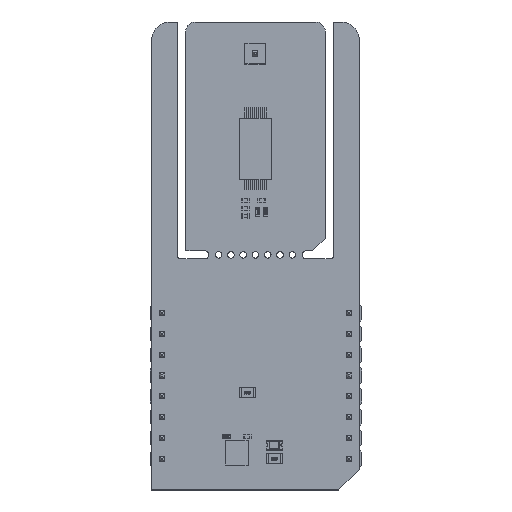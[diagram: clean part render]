
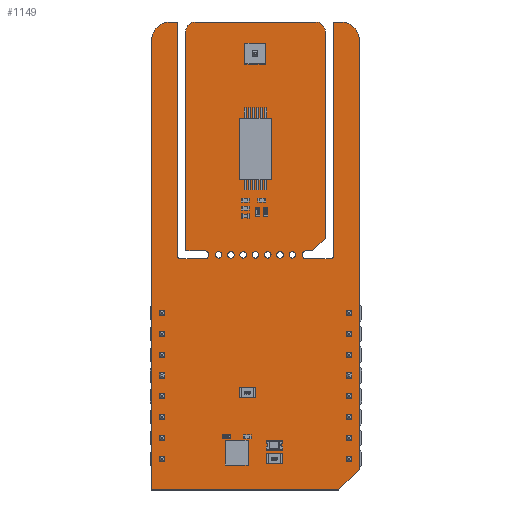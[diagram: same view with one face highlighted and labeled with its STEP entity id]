
A CAD part, top view. The second image highlights one B-rep face of the part: STEP entity #1149.
In plain terms, the highlighted planar face has unit normal (0, 0, 1).
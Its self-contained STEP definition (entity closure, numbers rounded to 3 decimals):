
#112 = VERTEX_POINT('',#113);
#113 = CARTESIAN_POINT('',(1.905,24.8,1.59));
#119 = EDGE_CURVE('',#112,#120,#122,.T.);
#120 = VERTEX_POINT('',#121);
#121 = CARTESIAN_POINT('',(2.305,24.4,1.59));
#122 = CIRCLE('',#123,0.399);
#123 = AXIS2_PLACEMENT_3D('',#124,#125,#126);
#124 = CARTESIAN_POINT('',(2.304,24.799,1.59));
#125 = DIRECTION('',(0.,0.,1.));
#126 = DIRECTION('',(-1.,0.001,0.));
#152 = EDGE_CURVE('',#120,#153,#155,.T.);
#153 = VERTEX_POINT('',#154);
#154 = CARTESIAN_POINT('',(5.23,24.4,1.59));
#155 = LINE('',#156,#157);
#156 = CARTESIAN_POINT('',(2.305,24.4,1.59));
#157 = VECTOR('',#158,1.);
#158 = DIRECTION('',(1.,0.,0.));
#183 = EDGE_CURVE('',#153,#184,#186,.T.);
#184 = VERTEX_POINT('',#185);
#185 = CARTESIAN_POINT('',(5.23,25.4,1.59));
#186 = CIRCLE('',#187,0.5);
#187 = AXIS2_PLACEMENT_3D('',#188,#189,#190);
#188 = CARTESIAN_POINT('',(5.23,24.9,1.59));
#189 = DIRECTION('',(0.,0.,1.));
#190 = DIRECTION('',(-0.,-1.,0.));
#216 = EDGE_CURVE('',#184,#217,#219,.T.);
#217 = VERTEX_POINT('',#218);
#218 = CARTESIAN_POINT('',(2.921,25.4,1.59));
#219 = LINE('',#220,#221);
#220 = CARTESIAN_POINT('',(5.23,25.4,1.59));
#221 = VECTOR('',#222,1.);
#222 = DIRECTION('',(-1.,0.,0.));
#247 = EDGE_CURVE('',#217,#248,#250,.T.);
#248 = VERTEX_POINT('',#249);
#249 = CARTESIAN_POINT('',(2.921,52.197,1.59));
#250 = LINE('',#251,#252);
#251 = CARTESIAN_POINT('',(2.921,25.4,1.59));
#252 = VECTOR('',#253,1.);
#253 = DIRECTION('',(0.,1.,0.));
#278 = EDGE_CURVE('',#248,#279,#281,.T.);
#279 = VERTEX_POINT('',#280);
#280 = CARTESIAN_POINT('',(4.064,53.34,1.59));
#281 = CIRCLE('',#282,1.144);
#282 = AXIS2_PLACEMENT_3D('',#283,#284,#285);
#283 = CARTESIAN_POINT('',(4.065,52.196,1.59));
#284 = DIRECTION('',(0.,0.,-1.));
#285 = DIRECTION('',(-1.,0.001,0.));
#311 = EDGE_CURVE('',#279,#312,#314,.T.);
#312 = VERTEX_POINT('',#313);
#313 = CARTESIAN_POINT('',(18.796,53.34,1.59));
#314 = LINE('',#315,#316);
#315 = CARTESIAN_POINT('',(4.064,53.34,1.59));
#316 = VECTOR('',#317,1.);
#317 = DIRECTION('',(1.,0.,0.));
#342 = EDGE_CURVE('',#312,#343,#345,.T.);
#343 = VERTEX_POINT('',#344);
#344 = CARTESIAN_POINT('',(19.939,52.197,1.59));
#345 = CIRCLE('',#346,1.144);
#346 = AXIS2_PLACEMENT_3D('',#347,#348,#349);
#347 = CARTESIAN_POINT('',(18.795,52.196,1.59));
#348 = DIRECTION('',(0.,0.,-1.));
#349 = DIRECTION('',(0.001,1.,0.));
#375 = EDGE_CURVE('',#343,#376,#378,.T.);
#376 = VERTEX_POINT('',#377);
#377 = CARTESIAN_POINT('',(19.939,26.924,1.59));
#378 = LINE('',#379,#380);
#379 = CARTESIAN_POINT('',(19.939,52.197,1.59));
#380 = VECTOR('',#381,1.);
#381 = DIRECTION('',(0.,-1.,0.));
#406 = EDGE_CURVE('',#376,#407,#409,.T.);
#407 = VERTEX_POINT('',#408);
#408 = CARTESIAN_POINT('',(18.415,25.4,1.59));
#409 = LINE('',#410,#411);
#410 = CARTESIAN_POINT('',(19.939,26.924,1.59));
#411 = VECTOR('',#412,1.);
#412 = DIRECTION('',(-0.707,-0.707,0.));
#437 = EDGE_CURVE('',#407,#438,#440,.T.);
#438 = VERTEX_POINT('',#439);
#439 = CARTESIAN_POINT('',(17.63,25.4,1.59));
#440 = LINE('',#441,#442);
#441 = CARTESIAN_POINT('',(18.415,25.4,1.59));
#442 = VECTOR('',#443,1.);
#443 = DIRECTION('',(-1.,0.,0.));
#468 = EDGE_CURVE('',#438,#469,#471,.T.);
#469 = VERTEX_POINT('',#470);
#470 = CARTESIAN_POINT('',(17.63,24.4,1.59));
#471 = CIRCLE('',#472,0.5);
#472 = AXIS2_PLACEMENT_3D('',#473,#474,#475);
#473 = CARTESIAN_POINT('',(17.63,24.9,1.59));
#474 = DIRECTION('',(0.,-0.,1.));
#475 = DIRECTION('',(0.,1.,0.));
#501 = EDGE_CURVE('',#469,#502,#504,.T.);
#502 = VERTEX_POINT('',#503);
#503 = CARTESIAN_POINT('',(20.555,24.4,1.59));
#504 = LINE('',#505,#506);
#505 = CARTESIAN_POINT('',(17.63,24.4,1.59));
#506 = VECTOR('',#507,1.);
#507 = DIRECTION('',(1.,0.,0.));
#532 = EDGE_CURVE('',#502,#533,#535,.T.);
#533 = VERTEX_POINT('',#534);
#534 = CARTESIAN_POINT('',(20.955,24.8,1.59));
#535 = CIRCLE('',#536,0.399);
#536 = AXIS2_PLACEMENT_3D('',#537,#538,#539);
#537 = CARTESIAN_POINT('',(20.556,24.799,1.59));
#538 = DIRECTION('',(0.,0.,1.));
#539 = DIRECTION('',(-0.001,-1.,0.));
#565 = EDGE_CURVE('',#533,#566,#568,.T.);
#566 = VERTEX_POINT('',#567);
#567 = CARTESIAN_POINT('',(20.955,53.34,1.59));
#568 = LINE('',#569,#570);
#569 = CARTESIAN_POINT('',(20.955,24.8,1.59));
#570 = VECTOR('',#571,1.);
#571 = DIRECTION('',(0.,1.,0.));
#596 = EDGE_CURVE('',#566,#597,#599,.T.);
#597 = VERTEX_POINT('',#598);
#598 = CARTESIAN_POINT('',(21.844,53.34,1.59));
#599 = LINE('',#600,#601);
#600 = CARTESIAN_POINT('',(20.955,53.34,1.59));
#601 = VECTOR('',#602,1.);
#602 = DIRECTION('',(1.,0.,0.));
#627 = EDGE_CURVE('',#597,#628,#630,.T.);
#628 = VERTEX_POINT('',#629);
#629 = CARTESIAN_POINT('',(24.13,51.054,1.59));
#630 = CIRCLE('',#631,2.288);
#631 = AXIS2_PLACEMENT_3D('',#632,#633,#634);
#632 = CARTESIAN_POINT('',(21.842,51.052,1.59));
#633 = DIRECTION('',(0.,0.,-1.));
#634 = DIRECTION('',(0.001,1.,0.));
#660 = EDGE_CURVE('',#628,#661,#663,.T.);
#661 = VERTEX_POINT('',#662);
#662 = CARTESIAN_POINT('',(24.13,-1.27,1.59));
#663 = LINE('',#664,#665);
#664 = CARTESIAN_POINT('',(24.13,51.054,1.59));
#665 = VECTOR('',#666,1.);
#666 = DIRECTION('',(0.,-1.,0.));
#691 = EDGE_CURVE('',#661,#692,#694,.T.);
#692 = VERTEX_POINT('',#693);
#693 = CARTESIAN_POINT('',(21.59,-3.81,1.59));
#694 = LINE('',#695,#696);
#695 = CARTESIAN_POINT('',(24.13,-1.27,1.59));
#696 = VECTOR('',#697,1.);
#697 = DIRECTION('',(-0.707,-0.707,0.));
#722 = EDGE_CURVE('',#692,#723,#725,.T.);
#723 = VERTEX_POINT('',#724);
#724 = CARTESIAN_POINT('',(-1.27,-3.81,1.59));
#725 = LINE('',#726,#727);
#726 = CARTESIAN_POINT('',(21.59,-3.81,1.59));
#727 = VECTOR('',#728,1.);
#728 = DIRECTION('',(-1.,0.,0.));
#753 = EDGE_CURVE('',#723,#754,#756,.T.);
#754 = VERTEX_POINT('',#755);
#755 = CARTESIAN_POINT('',(-1.27,51.054,1.59));
#756 = LINE('',#757,#758);
#757 = CARTESIAN_POINT('',(-1.27,-3.81,1.59));
#758 = VECTOR('',#759,1.);
#759 = DIRECTION('',(0.,1.,0.));
#784 = EDGE_CURVE('',#754,#785,#787,.T.);
#785 = VERTEX_POINT('',#786);
#786 = CARTESIAN_POINT('',(1.016,53.34,1.59));
#787 = CIRCLE('',#788,2.288);
#788 = AXIS2_PLACEMENT_3D('',#789,#790,#791);
#789 = CARTESIAN_POINT('',(1.018,51.052,1.59));
#790 = DIRECTION('',(0.,0.,-1.));
#791 = DIRECTION('',(-1.,0.001,0.));
#817 = EDGE_CURVE('',#785,#818,#820,.T.);
#818 = VERTEX_POINT('',#819);
#819 = CARTESIAN_POINT('',(1.905,53.34,1.59));
#820 = LINE('',#821,#822);
#821 = CARTESIAN_POINT('',(1.016,53.34,1.59));
#822 = VECTOR('',#823,1.);
#823 = DIRECTION('',(1.,0.,0.));
#848 = EDGE_CURVE('',#818,#112,#849,.T.);
#849 = LINE('',#850,#851);
#850 = CARTESIAN_POINT('',(1.905,53.34,1.59));
#851 = VECTOR('',#852,1.);
#852 = DIRECTION('',(0.,-1.,0.));
#872 = VERTEX_POINT('',#873);
#873 = CARTESIAN_POINT('',(7.33,24.9,1.59));
#879 = EDGE_CURVE('',#872,#872,#880,.T.);
#880 = CIRCLE('',#881,0.4);
#881 = AXIS2_PLACEMENT_3D('',#882,#883,#884);
#882 = CARTESIAN_POINT('',(6.93,24.9,1.59));
#883 = DIRECTION('',(0.,0.,1.));
#884 = DIRECTION('',(1.,0.,-0.));
#905 = VERTEX_POINT('',#906);
#906 = CARTESIAN_POINT('',(8.83,24.9,1.59));
#912 = EDGE_CURVE('',#905,#905,#913,.T.);
#913 = CIRCLE('',#914,0.4);
#914 = AXIS2_PLACEMENT_3D('',#915,#916,#917);
#915 = CARTESIAN_POINT('',(8.43,24.9,1.59));
#916 = DIRECTION('',(0.,0.,1.));
#917 = DIRECTION('',(1.,0.,-0.));
#938 = VERTEX_POINT('',#939);
#939 = CARTESIAN_POINT('',(10.33,24.9,1.59));
#945 = EDGE_CURVE('',#938,#938,#946,.T.);
#946 = CIRCLE('',#947,0.4);
#947 = AXIS2_PLACEMENT_3D('',#948,#949,#950);
#948 = CARTESIAN_POINT('',(9.93,24.9,1.59));
#949 = DIRECTION('',(0.,0.,1.));
#950 = DIRECTION('',(1.,0.,-0.));
#971 = VERTEX_POINT('',#972);
#972 = CARTESIAN_POINT('',(14.83,24.9,1.59));
#978 = EDGE_CURVE('',#971,#971,#979,.T.);
#979 = CIRCLE('',#980,0.4);
#980 = AXIS2_PLACEMENT_3D('',#981,#982,#983);
#981 = CARTESIAN_POINT('',(14.43,24.9,1.59));
#982 = DIRECTION('',(0.,0.,1.));
#983 = DIRECTION('',(1.,0.,-0.));
#1004 = VERTEX_POINT('',#1005);
#1005 = CARTESIAN_POINT('',(16.33,24.9,1.59));
#1011 = EDGE_CURVE('',#1004,#1004,#1012,.T.);
#1012 = CIRCLE('',#1013,0.4);
#1013 = AXIS2_PLACEMENT_3D('',#1014,#1015,#1016);
#1014 = CARTESIAN_POINT('',(15.93,24.9,1.59));
#1015 = DIRECTION('',(0.,0.,1.));
#1016 = DIRECTION('',(1.,0.,-0.));
#1037 = VERTEX_POINT('',#1038);
#1038 = CARTESIAN_POINT('',(11.83,24.9,1.59));
#1044 = EDGE_CURVE('',#1037,#1037,#1045,.T.);
#1045 = CIRCLE('',#1046,0.4);
#1046 = AXIS2_PLACEMENT_3D('',#1047,#1048,#1049);
#1047 = CARTESIAN_POINT('',(11.43,24.9,1.59));
#1048 = DIRECTION('',(0.,0.,1.));
#1049 = DIRECTION('',(1.,0.,-0.));
#1070 = VERTEX_POINT('',#1071);
#1071 = CARTESIAN_POINT('',(13.33,24.9,1.59));
#1077 = EDGE_CURVE('',#1070,#1070,#1078,.T.);
#1078 = CIRCLE('',#1079,0.4);
#1079 = AXIS2_PLACEMENT_3D('',#1080,#1081,#1082);
#1080 = CARTESIAN_POINT('',(12.93,24.9,1.59));
#1081 = DIRECTION('',(0.,0.,1.));
#1082 = DIRECTION('',(1.,0.,-0.));
#1149 = ADVANCED_FACE('',(#1150,#1176,#1179,#1182,#1185,#1188,#1191,
    #1194),#1197,.F.);
#1150 = FACE_BOUND('',#1151,.F.);
#1151 = EDGE_LOOP('',(#1152,#1153,#1154,#1155,#1156,#1157,#1158,#1159,
    #1160,#1161,#1162,#1163,#1164,#1165,#1166,#1167,#1168,#1169,#1170,
    #1171,#1172,#1173,#1174,#1175));
#1152 = ORIENTED_EDGE('',*,*,#119,.T.);
#1153 = ORIENTED_EDGE('',*,*,#152,.T.);
#1154 = ORIENTED_EDGE('',*,*,#183,.T.);
#1155 = ORIENTED_EDGE('',*,*,#216,.T.);
#1156 = ORIENTED_EDGE('',*,*,#247,.T.);
#1157 = ORIENTED_EDGE('',*,*,#278,.T.);
#1158 = ORIENTED_EDGE('',*,*,#311,.T.);
#1159 = ORIENTED_EDGE('',*,*,#342,.T.);
#1160 = ORIENTED_EDGE('',*,*,#375,.T.);
#1161 = ORIENTED_EDGE('',*,*,#406,.T.);
#1162 = ORIENTED_EDGE('',*,*,#437,.T.);
#1163 = ORIENTED_EDGE('',*,*,#468,.T.);
#1164 = ORIENTED_EDGE('',*,*,#501,.T.);
#1165 = ORIENTED_EDGE('',*,*,#532,.T.);
#1166 = ORIENTED_EDGE('',*,*,#565,.T.);
#1167 = ORIENTED_EDGE('',*,*,#596,.T.);
#1168 = ORIENTED_EDGE('',*,*,#627,.T.);
#1169 = ORIENTED_EDGE('',*,*,#660,.T.);
#1170 = ORIENTED_EDGE('',*,*,#691,.T.);
#1171 = ORIENTED_EDGE('',*,*,#722,.T.);
#1172 = ORIENTED_EDGE('',*,*,#753,.T.);
#1173 = ORIENTED_EDGE('',*,*,#784,.T.);
#1174 = ORIENTED_EDGE('',*,*,#817,.T.);
#1175 = ORIENTED_EDGE('',*,*,#848,.T.);
#1176 = FACE_BOUND('',#1177,.F.);
#1177 = EDGE_LOOP('',(#1178));
#1178 = ORIENTED_EDGE('',*,*,#879,.T.);
#1179 = FACE_BOUND('',#1180,.F.);
#1180 = EDGE_LOOP('',(#1181));
#1181 = ORIENTED_EDGE('',*,*,#912,.T.);
#1182 = FACE_BOUND('',#1183,.F.);
#1183 = EDGE_LOOP('',(#1184));
#1184 = ORIENTED_EDGE('',*,*,#945,.T.);
#1185 = FACE_BOUND('',#1186,.F.);
#1186 = EDGE_LOOP('',(#1187));
#1187 = ORIENTED_EDGE('',*,*,#978,.T.);
#1188 = FACE_BOUND('',#1189,.F.);
#1189 = EDGE_LOOP('',(#1190));
#1190 = ORIENTED_EDGE('',*,*,#1011,.T.);
#1191 = FACE_BOUND('',#1192,.F.);
#1192 = EDGE_LOOP('',(#1193));
#1193 = ORIENTED_EDGE('',*,*,#1044,.T.);
#1194 = FACE_BOUND('',#1195,.F.);
#1195 = EDGE_LOOP('',(#1196));
#1196 = ORIENTED_EDGE('',*,*,#1077,.T.);
#1197 = PLANE('',#1198);
#1198 = AXIS2_PLACEMENT_3D('',#1199,#1200,#1201);
#1199 = CARTESIAN_POINT('',(11.331,30.13,1.59));
#1200 = DIRECTION('',(-0.,-0.,-1.));
#1201 = DIRECTION('',(-1.,0.,0.));
